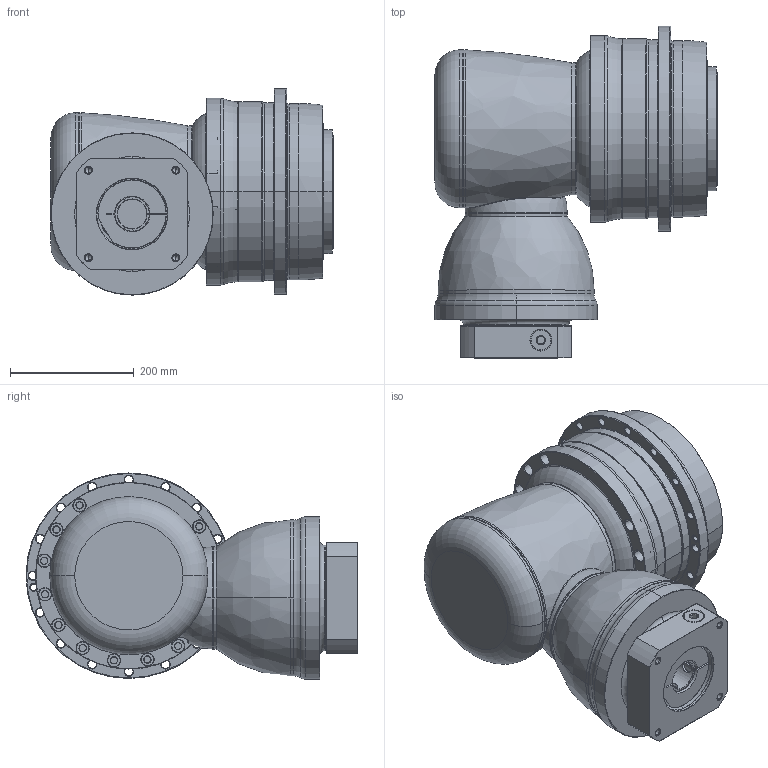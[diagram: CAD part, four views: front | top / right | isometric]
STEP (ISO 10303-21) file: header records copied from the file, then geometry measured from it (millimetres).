
FILE_DESCRIPTION((''),'2;1');
FILE_NAME('AHK285_2ST_48-P0409B00101_ASM','2016-10-20T',('d01943'),(''),'PRO/ENGINEER BY PARAMETRIC TECHNOLOGY CORPORATION, 2008410','PRO/ENGINEER BY PARAMETRIC TECHNOLOGY CORPORATION, 2008410','');
FILE_SCHEMA(('CONFIG_CONTROL_DESIGN'));
Length unit declared in the file: millimetre
Products named in the file (12): P1008700002; P1802800001; P0278800003; P0359800003; P1315700001; P1007700001; P1318700301; P0503B00016; P0912703201; P0409B00101; 21711426021; AHK285_2ST_48-P0409B00101_ASM
Assembly tree (11 placements, depth 2):
  AHK285_2ST_48-P0409B00101_ASM
    P1008700002
    P1802800001
    P0278800003
    P0359800003
    P1315700001
    P1007700001
    P1318700301
    P0503B00016
    P0912703201
    P0409B00101
    21711426021
Bounding box: 455.5 x 536 x 333 mm (x, y, z)
Volume: 26047315.9 mm3; surface area: 1821147.3 mm2
Topology: 12 solids, 12 shells, 973 faces, 2202 edges, 1277 vertices
Faces by surface type: cylinder 345, cone 336, plane 136, torus 124, bspline 30, sphere 2
Entity records: 34830 total; most frequent: CARTESIAN_POINT 12392, DIRECTION 5164, ORIENTED_EDGE 4280, AXIS2_PLACEMENT_3D 2197, EDGE_CURVE 2140, VERTEX_POINT 1277, CIRCLE 1231, EDGE_LOOP 1155
